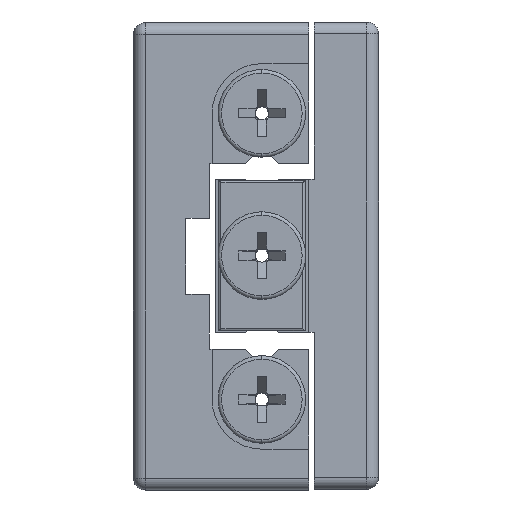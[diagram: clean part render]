
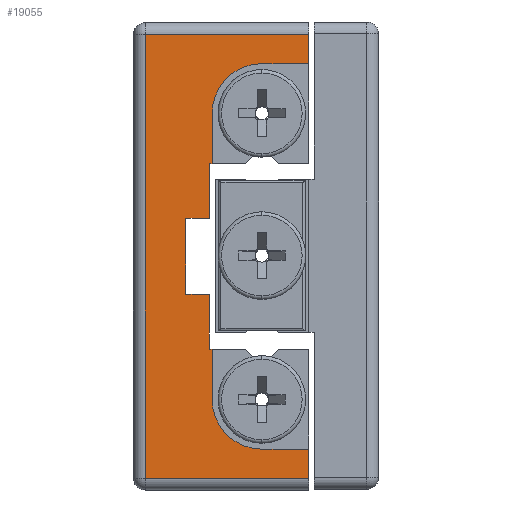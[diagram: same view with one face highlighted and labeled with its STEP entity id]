
A CAD part, left-side view. The second image highlights one B-rep face of the part: STEP entity #19055.
In plain terms, the highlighted planar face has unit normal (-1, 0, 0).
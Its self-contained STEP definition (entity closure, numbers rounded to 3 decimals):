
#599 = ORIENTED_EDGE ( 'NONE', *, *, #18183, .T. ) ;
#1025 = VECTOR ( 'NONE', #14731, 1000. ) ;
#1113 = DIRECTION ( 'NONE',  ( 0., 1., 0. ) ) ;
#1280 = CARTESIAN_POINT ( 'NONE',  ( -39.104, -67.399, -84.783 ) ) ;
#1430 = DIRECTION ( 'NONE',  ( 1., 0., 0. ) ) ;
#1464 = CARTESIAN_POINT ( 'NONE',  ( -39.104, -60.899, -65.033 ) ) ;
#1507 = LINE ( 'NONE', #14507, #18677 ) ;
#1601 = CARTESIAN_POINT ( 'NONE',  ( -39.104, -62.899, -65.033 ) ) ;
#1725 = VECTOR ( 'NONE', #21874, 1000. ) ;
#1993 = CARTESIAN_POINT ( 'NONE',  ( -39.104, -62.899, -71.533 ) ) ;
#2260 = EDGE_CURVE ( 'NONE', #12427, #19538, #2487, .T. ) ;
#2363 = ORIENTED_EDGE ( 'NONE', *, *, #24604, .F. ) ;
#2487 = LINE ( 'NONE', #19204, #8241 ) ;
#2546 = ORIENTED_EDGE ( 'NONE', *, *, #22910, .T. ) ;
#2740 = VERTEX_POINT ( 'NONE', #8904 ) ;
#3022 = CIRCLE ( 'NONE', #24182, 4.25 ) ;
#3382 = DIRECTION ( 'NONE',  ( 0., 1., 0. ) ) ;
#3415 = VERTEX_POINT ( 'NONE', #22207 ) ;
#3858 = LINE ( 'NONE', #16269, #8391 ) ;
#4072 = CARTESIAN_POINT ( 'NONE',  ( -39.104, -62.899, -60.333 ) ) ;
#4676 = EDGE_CURVE ( 'NONE', #9003, #12427, #1507, .T. ) ;
#4726 = CARTESIAN_POINT ( 'NONE',  ( -39.104, -71.399, -88.283 ) ) ;
#4734 = CARTESIAN_POINT ( 'NONE',  ( -39.104, -71.399, -84.783 ) ) ;
#4907 = DIRECTION ( 'NONE',  ( 0., 1., 0. ) ) ;
#5321 = AXIS2_PLACEMENT_3D ( 'NONE', #12893, #1430, #14738 ) ;
#5351 = DIRECTION ( 'NONE',  ( 0., 0., -1. ) ) ;
#5691 = ORIENTED_EDGE ( 'NONE', *, *, #4676, .F. ) ;
#5902 = CARTESIAN_POINT ( 'NONE',  ( -39.104, -63.149, -60.333 ) ) ;
#5925 = VECTOR ( 'NONE', #1113, 1000. ) ;
#6277 = EDGE_CURVE ( 'NONE', #11073, #11975, #8517, .T. ) ;
#6369 = VERTEX_POINT ( 'NONE', #15274 ) ;
#6521 = LINE ( 'NONE', #10656, #5925 ) ;
#6641 = DIRECTION ( 'NONE',  ( 0., 0., 1. ) ) ;
#6649 = CARTESIAN_POINT ( 'NONE',  ( -39.104, -60.899, -71.533 ) ) ;
#6784 = CARTESIAN_POINT ( 'NONE',  ( -39.104, -63.149, -76.233 ) ) ;
#6830 = LINE ( 'NONE', #6649, #1725 ) ;
#6999 = EDGE_CURVE ( 'NONE', #9663, #20926, #21251, .T. ) ;
#7025 = ORIENTED_EDGE ( 'NONE', *, *, #22275, .F. ) ;
#7042 = CARTESIAN_POINT ( 'NONE',  ( -39.104, -56.399, -49.283 ) ) ;
#7142 = VECTOR ( 'NONE', #20428, 1000. ) ;
#7252 = CARTESIAN_POINT ( 'NONE',  ( -39.104, -62.899, -65.033 ) ) ;
#7577 = CARTESIAN_POINT ( 'NONE',  ( -39.104, -56.399, -87.283 ) ) ;
#7627 = VECTOR ( 'NONE', #8047, 1000. ) ;
#7751 = LINE ( 'NONE', #7042, #7142 ) ;
#8047 = DIRECTION ( 'NONE',  ( 0., 0., 1. ) ) ;
#8091 = EDGE_CURVE ( 'NONE', #3415, #18681, #3022, .T. ) ;
#8241 = VECTOR ( 'NONE', #14924, 1000. ) ;
#8391 = VECTOR ( 'NONE', #18235, 1000. ) ;
#8517 = LINE ( 'NONE', #1601, #11773 ) ;
#8904 = CARTESIAN_POINT ( 'NONE',  ( -39.104, -71.399, -87.283 ) ) ;
#9003 = VERTEX_POINT ( 'NONE', #20928 ) ;
#9318 = CARTESIAN_POINT ( 'NONE',  ( -39.104, -71.399, -51.783 ) ) ;
#9405 = ORIENTED_EDGE ( 'NONE', *, *, #13723, .T. ) ;
#9663 = VERTEX_POINT ( 'NONE', #4734 ) ;
#9704 = DIRECTION ( 'NONE',  ( 1., 0., 0. ) ) ;
#9995 = EDGE_CURVE ( 'NONE', #13567, #24013, #22665, .T. ) ;
#10202 = EDGE_CURVE ( 'NONE', #2740, #9663, #18431, .T. ) ;
#10259 = ORIENTED_EDGE ( 'NONE', *, *, #10202, .T. ) ;
#10277 = ORIENTED_EDGE ( 'NONE', *, *, #18471, .F. ) ;
#10376 = CARTESIAN_POINT ( 'NONE',  ( -39.104, -62.899, -76.233 ) ) ;
#10656 = CARTESIAN_POINT ( 'NONE',  ( -39.104, -62.899, -60.333 ) ) ;
#10790 = ORIENTED_EDGE ( 'NONE', *, *, #18180, .F. ) ;
#10920 = CARTESIAN_POINT ( 'NONE',  ( -39.104, -71.399, -49.283 ) ) ;
#10983 = ORIENTED_EDGE ( 'NONE', *, *, #6999, .T. ) ;
#11020 = VECTOR ( 'NONE', #16306, 1000. ) ;
#11073 = VERTEX_POINT ( 'NONE', #4072 ) ;
#11146 = DIRECTION ( 'NONE',  ( 0., 0., -1. ) ) ;
#11773 = VECTOR ( 'NONE', #11146, 1000. ) ;
#11975 = VERTEX_POINT ( 'NONE', #7252 ) ;
#12239 = EDGE_CURVE ( 'NONE', #20926, #20840, #16532, .T. ) ;
#12427 = VERTEX_POINT ( 'NONE', #1993 ) ;
#12491 = CARTESIAN_POINT ( 'NONE',  ( -39.104, -67.399, -84.783 ) ) ;
#12575 = ORIENTED_EDGE ( 'NONE', *, *, #21010, .T. ) ;
#12673 = LINE ( 'NONE', #17461, #7627 ) ;
#12694 = CARTESIAN_POINT ( 'NONE',  ( -39.104, -57.399, -87.283 ) ) ;
#12882 = CARTESIAN_POINT ( 'NONE',  ( -39.104, -56.399, -88.283 ) ) ;
#12893 = CARTESIAN_POINT ( 'NONE',  ( -39.104, -67.399, -80.533 ) ) ;
#13049 = FACE_OUTER_BOUND ( 'NONE', #19584, .T. ) ;
#13298 = CARTESIAN_POINT ( 'NONE',  ( -39.104, -67.399, -51.783 ) ) ;
#13394 = VECTOR ( 'NONE', #6641, 1000. ) ;
#13567 = VERTEX_POINT ( 'NONE', #13941 ) ;
#13723 = EDGE_CURVE ( 'NONE', #22942, #24575, #16776, .T. ) ;
#13926 = LINE ( 'NONE', #1464, #24772 ) ;
#13928 = EDGE_CURVE ( 'NONE', #14833, #3415, #12673, .T. ) ;
#13941 = CARTESIAN_POINT ( 'NONE',  ( -39.104, -57.399, -49.283 ) ) ;
#13986 = DIRECTION ( 'NONE',  ( 0., -1., 0. ) ) ;
#14014 = VECTOR ( 'NONE', #24794, 1000. ) ;
#14045 = LINE ( 'NONE', #18756, #24254 ) ;
#14329 = ORIENTED_EDGE ( 'NONE', *, *, #2260, .F. ) ;
#14354 = CARTESIAN_POINT ( 'NONE',  ( -39.104, -63.149, -80.533 ) ) ;
#14507 = CARTESIAN_POINT ( 'NONE',  ( -39.104, -62.899, -71.533 ) ) ;
#14731 = DIRECTION ( 'NONE',  ( 0., 0., 1. ) ) ;
#14738 = DIRECTION ( 'NONE',  ( 0., 0., 1. ) ) ;
#14833 = VERTEX_POINT ( 'NONE', #5902 ) ;
#14924 = DIRECTION ( 'NONE',  ( 0., 0., -1. ) ) ;
#15274 = CARTESIAN_POINT ( 'NONE',  ( -39.104, -60.899, -65.033 ) ) ;
#15984 = LINE ( 'NONE', #24016, #11020 ) ;
#16269 = CARTESIAN_POINT ( 'NONE',  ( -39.104, -71.399, -76.233 ) ) ;
#16306 = DIRECTION ( 'NONE',  ( 0., 0., 1. ) ) ;
#16433 = ORIENTED_EDGE ( 'NONE', *, *, #9995, .T. ) ;
#16532 = CIRCLE ( 'NONE', #5321, 4.25 ) ;
#16719 = DIRECTION ( 'NONE',  ( 1., 0., 0. ) ) ;
#16776 = LINE ( 'NONE', #24345, #1025 ) ;
#16832 = EDGE_CURVE ( 'NONE', #24013, #2740, #19078, .T. ) ;
#17461 = CARTESIAN_POINT ( 'NONE',  ( -39.104, -63.149, -56.033 ) ) ;
#17556 = ORIENTED_EDGE ( 'NONE', *, *, #13928, .T. ) ;
#18180 = EDGE_CURVE ( 'NONE', #14833, #11073, #6521, .T. ) ;
#18183 = EDGE_CURVE ( 'NONE', #20840, #23951, #15984, .T. ) ;
#18235 = DIRECTION ( 'NONE',  ( 0., -1., 0. ) ) ;
#18431 = LINE ( 'NONE', #4726, #13394 ) ;
#18471 = EDGE_CURVE ( 'NONE', #6369, #9003, #6830, .T. ) ;
#18677 = VECTOR ( 'NONE', #13986, 1000. ) ;
#18681 = VERTEX_POINT ( 'NONE', #13298 ) ;
#18756 = CARTESIAN_POINT ( 'NONE',  ( -39.104, -67.399, -51.783 ) ) ;
#19036 = CARTESIAN_POINT ( 'NONE',  ( -39.104, -57.399, -88.283 ) ) ;
#19055 = ADVANCED_FACE ( 'NONE', ( #13049 ), #20512, .F. ) ;
#19078 = LINE ( 'NONE', #7577, #14014 ) ;
#19204 = CARTESIAN_POINT ( 'NONE',  ( -39.104, -62.899, -76.233 ) ) ;
#19538 = VERTEX_POINT ( 'NONE', #10376 ) ;
#19584 = EDGE_LOOP ( 'NONE', ( #16433, #20799, #10259, #10983, #23467, #599, #7025, #14329, #5691, #10277, #2363, #22868, #10790, #17556, #23960, #12575, #9405, #2546 ) ) ;
#20428 = DIRECTION ( 'NONE',  ( 0., 1., 0. ) ) ;
#20512 = PLANE ( 'NONE',  #23791 ) ;
#20694 = DIRECTION ( 'NONE',  ( 0., -1., 0. ) ) ;
#20799 = ORIENTED_EDGE ( 'NONE', *, *, #16832, .T. ) ;
#20840 = VERTEX_POINT ( 'NONE', #14354 ) ;
#20926 = VERTEX_POINT ( 'NONE', #1280 ) ;
#20928 = CARTESIAN_POINT ( 'NONE',  ( -39.104, -60.899, -71.533 ) ) ;
#20971 = DIRECTION ( 'NONE',  ( 0., 0., -1. ) ) ;
#21010 = EDGE_CURVE ( 'NONE', #18681, #22942, #14045, .T. ) ;
#21053 = CARTESIAN_POINT ( 'NONE',  ( -39.104, -67.399, -56.033 ) ) ;
#21251 = LINE ( 'NONE', #12491, #23616 ) ;
#21874 = DIRECTION ( 'NONE',  ( 0., 0., -1. ) ) ;
#22046 = VECTOR ( 'NONE', #20971, 1000. ) ;
#22207 = CARTESIAN_POINT ( 'NONE',  ( -39.104, -63.149, -56.033 ) ) ;
#22275 = EDGE_CURVE ( 'NONE', #19538, #23951, #3858, .T. ) ;
#22665 = LINE ( 'NONE', #19036, #22046 ) ;
#22868 = ORIENTED_EDGE ( 'NONE', *, *, #6277, .F. ) ;
#22910 = EDGE_CURVE ( 'NONE', #24575, #13567, #7751, .T. ) ;
#22942 = VERTEX_POINT ( 'NONE', #9318 ) ;
#23029 = DIRECTION ( 'NONE',  ( 0., 0., -1. ) ) ;
#23467 = ORIENTED_EDGE ( 'NONE', *, *, #12239, .T. ) ;
#23616 = VECTOR ( 'NONE', #4907, 1000. ) ;
#23791 = AXIS2_PLACEMENT_3D ( 'NONE', #12882, #16719, #5351 ) ;
#23951 = VERTEX_POINT ( 'NONE', #6784 ) ;
#23960 = ORIENTED_EDGE ( 'NONE', *, *, #8091, .T. ) ;
#24013 = VERTEX_POINT ( 'NONE', #12694 ) ;
#24016 = CARTESIAN_POINT ( 'NONE',  ( -39.104, -63.149, -80.533 ) ) ;
#24182 = AXIS2_PLACEMENT_3D ( 'NONE', #21053, #9704, #23029 ) ;
#24254 = VECTOR ( 'NONE', #20694, 1000. ) ;
#24345 = CARTESIAN_POINT ( 'NONE',  ( -39.104, -71.399, -88.283 ) ) ;
#24575 = VERTEX_POINT ( 'NONE', #10920 ) ;
#24604 = EDGE_CURVE ( 'NONE', #11975, #6369, #13926, .T. ) ;
#24772 = VECTOR ( 'NONE', #3382, 1000. ) ;
#24794 = DIRECTION ( 'NONE',  ( 0., -1., 0. ) ) ;
